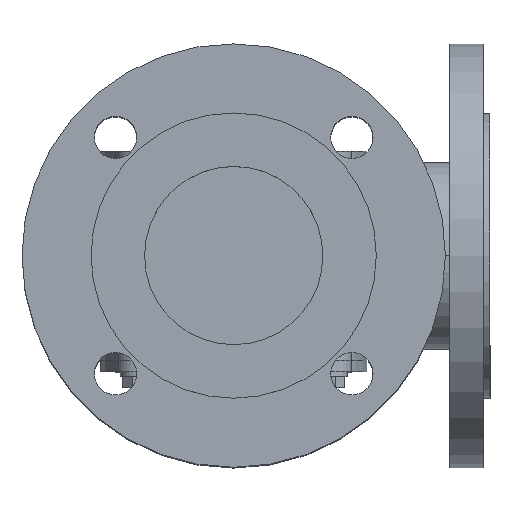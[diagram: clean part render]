
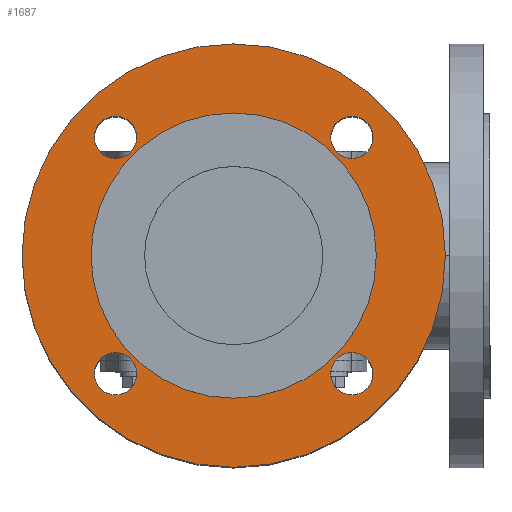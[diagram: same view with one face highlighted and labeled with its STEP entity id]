
A CAD part, top view. The second image highlights one B-rep face of the part: STEP entity #1687.
In plain terms, the highlighted planar face has unit normal (0, 0, 1).
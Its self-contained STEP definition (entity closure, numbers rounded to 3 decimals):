
#1159=CARTESIAN_POINT('',(0.,95.,227.));
#1160=VERTEX_POINT('',#1159);
#1176=CARTESIAN_POINT('',(0.,-95.,227.));
#1177=VERTEX_POINT('',#1176);
#1184=CARTESIAN_POINT('',(0.,0.,227.0));
#1185=DIRECTION('',(0.0,0.0,1.0));
#1186=DIRECTION('',(0.0,1.0,0.0));
#1187=AXIS2_PLACEMENT_3D('',#1184,#1185,#1186);
#1188=CIRCLE('',#1187,95.0);
#1189=EDGE_CURVE('',#1160,#1177,#1188,.T.);
#1199=CARTESIAN_POINT('',(0.,64.,227.));
#1200=VERTEX_POINT('',#1199);
#1209=CARTESIAN_POINT('',(0.,-64.,227.));
#1210=VERTEX_POINT('',#1209);
#1211=CARTESIAN_POINT('',(0.,0.,227.0));
#1212=DIRECTION('',(0.0,0.0,-1.0));
#1213=DIRECTION('',(0.0,1.0,0.0));
#1214=AXIS2_PLACEMENT_3D('',#1211,#1212,#1213);
#1215=CIRCLE('',#1214,64.0);
#1216=EDGE_CURVE('',#1210,#1200,#1215,.T.);
#1283=CARTESIAN_POINT('',(53.033,62.533,227.));
#1284=VERTEX_POINT('',#1283);
#1293=CARTESIAN_POINT('',(53.033,43.533,227.));
#1294=VERTEX_POINT('',#1293);
#1295=CARTESIAN_POINT('',(53.033,53.033,227.));
#1296=DIRECTION('',(0.0,0.0,-1.0));
#1297=DIRECTION('',(0.0,1.0,0.0));
#1298=AXIS2_PLACEMENT_3D('',#1295,#1296,#1297);
#1299=CIRCLE('',#1298,9.5);
#1300=EDGE_CURVE('',#1294,#1284,#1299,.T.);
#1325=CARTESIAN_POINT('',(-53.033,-43.533,227.));
#1326=VERTEX_POINT('',#1325);
#1335=CARTESIAN_POINT('',(-53.033,-62.533,227.));
#1336=VERTEX_POINT('',#1335);
#1337=CARTESIAN_POINT('',(-53.033,-53.033,227.));
#1338=DIRECTION('',(0.0,0.0,-1.0));
#1339=DIRECTION('',(0.0,1.0,0.0));
#1340=AXIS2_PLACEMENT_3D('',#1337,#1338,#1339);
#1341=CIRCLE('',#1340,9.5);
#1342=EDGE_CURVE('',#1336,#1326,#1341,.T.);
#1367=CARTESIAN_POINT('',(-53.033,62.533,227.));
#1368=VERTEX_POINT('',#1367);
#1377=CARTESIAN_POINT('',(-53.033,43.533,227.));
#1378=VERTEX_POINT('',#1377);
#1379=CARTESIAN_POINT('',(-53.033,53.033,227.));
#1380=DIRECTION('',(0.0,0.0,-1.0));
#1381=DIRECTION('',(0.0,1.0,0.0));
#1382=AXIS2_PLACEMENT_3D('',#1379,#1380,#1381);
#1383=CIRCLE('',#1382,9.5);
#1384=EDGE_CURVE('',#1378,#1368,#1383,.T.);
#1409=CARTESIAN_POINT('',(53.033,-43.533,227.));
#1410=VERTEX_POINT('',#1409);
#1419=CARTESIAN_POINT('',(53.033,-62.533,227.));
#1420=VERTEX_POINT('',#1419);
#1421=CARTESIAN_POINT('',(53.033,-53.033,227.));
#1422=DIRECTION('',(0.0,0.0,-1.0));
#1423=DIRECTION('',(0.0,1.0,0.0));
#1424=AXIS2_PLACEMENT_3D('',#1421,#1422,#1423);
#1425=CIRCLE('',#1424,9.5);
#1426=EDGE_CURVE('',#1420,#1410,#1425,.T.);
#1460=CARTESIAN_POINT('',(53.033,-53.033,227.));
#1461=DIRECTION('',(0.0,0.0,-1.0));
#1462=DIRECTION('',(0.0,1.0,0.0));
#1463=AXIS2_PLACEMENT_3D('',#1460,#1461,#1462);
#1464=CIRCLE('',#1463,9.5);
#1465=EDGE_CURVE('',#1410,#1420,#1464,.T.);
#1484=CARTESIAN_POINT('',(-53.033,53.033,227.));
#1485=DIRECTION('',(0.0,0.0,-1.0));
#1486=DIRECTION('',(0.0,1.0,0.0));
#1487=AXIS2_PLACEMENT_3D('',#1484,#1485,#1486);
#1488=CIRCLE('',#1487,9.5);
#1489=EDGE_CURVE('',#1368,#1378,#1488,.T.);
#1508=CARTESIAN_POINT('',(-53.033,-53.033,227.));
#1509=DIRECTION('',(0.0,0.0,-1.0));
#1510=DIRECTION('',(0.0,1.0,0.0));
#1511=AXIS2_PLACEMENT_3D('',#1508,#1509,#1510);
#1512=CIRCLE('',#1511,9.5);
#1513=EDGE_CURVE('',#1326,#1336,#1512,.T.);
#1532=CARTESIAN_POINT('',(53.033,53.033,227.));
#1533=DIRECTION('',(0.0,0.0,-1.0));
#1534=DIRECTION('',(0.0,1.0,0.0));
#1535=AXIS2_PLACEMENT_3D('',#1532,#1533,#1534);
#1536=CIRCLE('',#1535,9.5);
#1537=EDGE_CURVE('',#1284,#1294,#1536,.T.);
#1616=CARTESIAN_POINT('',(0.,0.,227.0));
#1617=DIRECTION('',(0.0,0.0,-1.0));
#1618=DIRECTION('',(0.0,1.0,0.0));
#1619=AXIS2_PLACEMENT_3D('',#1616,#1617,#1618);
#1620=CIRCLE('',#1619,64.0);
#1621=EDGE_CURVE('',#1200,#1210,#1620,.T.);
#1646=CARTESIAN_POINT('',(0.,0.,227.0));
#1647=DIRECTION('',(0.0,0.0,1.0));
#1648=DIRECTION('',(0.0,1.0,0.0));
#1649=AXIS2_PLACEMENT_3D('',#1646,#1647,#1648);
#1650=CIRCLE('',#1649,95.0);
#1651=EDGE_CURVE('',#1177,#1160,#1650,.T.);
#1658=CARTESIAN_POINT('',(0.,0.,227.0));
#1659=DIRECTION('',(0.0,0.0,1.0));
#1660=DIRECTION('',(0.0,1.0,0.0));
#1661=AXIS2_PLACEMENT_3D('',#1658,#1659,#1660);
#1662=PLANE('',#1661);
#1663=ORIENTED_EDGE('',*,*,#1189,.T.);
#1664=ORIENTED_EDGE('',*,*,#1651,.T.);
#1665=EDGE_LOOP('',(#1663,#1664));
#1666=FACE_OUTER_BOUND('',#1665,.T.);
#1667=ORIENTED_EDGE('',*,*,#1426,.T.);
#1668=ORIENTED_EDGE('',*,*,#1465,.T.);
#1669=EDGE_LOOP('',(#1667,#1668));
#1670=FACE_BOUND('',#1669,.T.);
#1671=ORIENTED_EDGE('',*,*,#1384,.T.);
#1672=ORIENTED_EDGE('',*,*,#1489,.T.);
#1673=EDGE_LOOP('',(#1671,#1672));
#1674=FACE_BOUND('',#1673,.T.);
#1675=ORIENTED_EDGE('',*,*,#1342,.T.);
#1676=ORIENTED_EDGE('',*,*,#1513,.T.);
#1677=EDGE_LOOP('',(#1675,#1676));
#1678=FACE_BOUND('',#1677,.T.);
#1679=ORIENTED_EDGE('',*,*,#1300,.T.);
#1680=ORIENTED_EDGE('',*,*,#1537,.T.);
#1681=EDGE_LOOP('',(#1679,#1680));
#1682=FACE_BOUND('',#1681,.T.);
#1683=ORIENTED_EDGE('',*,*,#1621,.T.);
#1684=ORIENTED_EDGE('',*,*,#1216,.T.);
#1685=EDGE_LOOP('',(#1683,#1684));
#1686=FACE_BOUND('',#1685,.T.);
#1687=ADVANCED_FACE('',(#1666,#1670,#1674,#1678,#1682,#1686),#1662,.T.);
